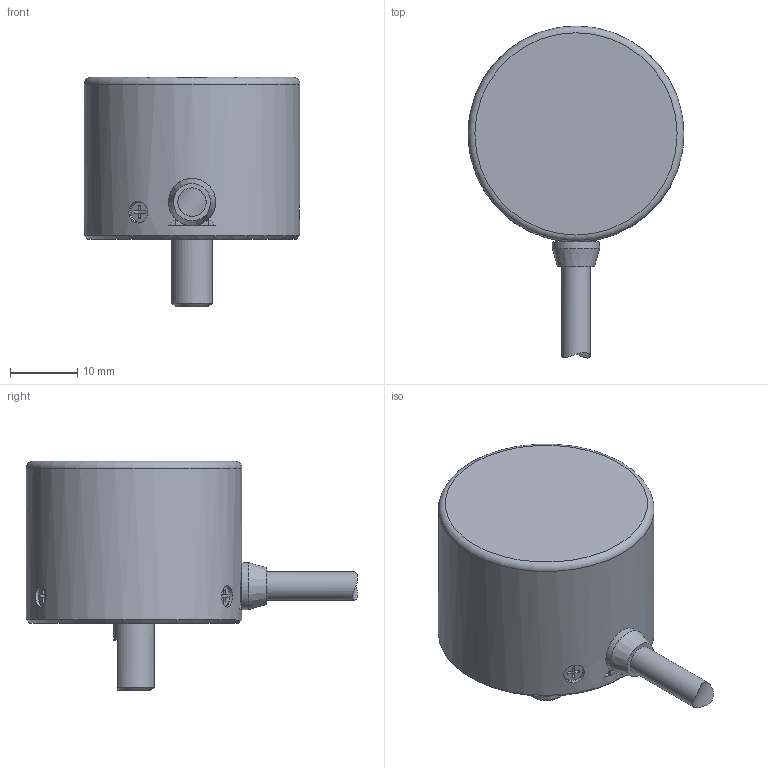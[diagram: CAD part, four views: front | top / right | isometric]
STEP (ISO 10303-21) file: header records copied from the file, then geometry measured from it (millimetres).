
FILE_DESCRIPTION(('STEP AP242'),'1');
FILE_NAME('1.stp','2022-08-19T09:54:58',(' '),(' '),'Spatial InterOp 3D',' ',' ');
FILE_SCHEMA(('AP242_MANAGED_MODEL_BASED_3D_ENGINEERING_MIM_LF {1 0 10303 442 1 1 4}'));
Length unit declared in the file: millimetre
Products named in the file (6): L08G06A MAS-20-＊＊＊□1; 029859 16芯ケーブル(4.2)MA-20P; φ4.2; MA20 ブッシュ; 018240 サラ0番1種 M2x4 鉄 三価黒
Assembly tree (7 placements, depth 3):
  L08G06A MAS-20-＊＊＊□1
    L08G06A MAS-20-＊＊＊□1
    029859 16芯ケーブル(4.2)MA-20P
      φ4.2
      MA20 ブッシュ
    018240 サラ0番1種 M2x4 鉄 三価黒  x3
Bounding box: 32 x 49.2 x 34 mm (x, y, z)
Volume: 19807.5 mm3; surface area: 5141.1 mm2
Topology: 6 solids, 7 shells, 128 faces, 291 edges, 188 vertices
Faces by surface type: plane 75, cylinder 35, cone 16, torus 2
Full cylindrical faces by diameter (mm): 2 x6, 2.5 x6, 3 x3, 3.2 x3, 4.2 x3, 6 x1, 7 x1, 10 x1, 14 x1, 32 x1
Entity records: 3564 total; most frequent: CARTESIAN_POINT 757, DIRECTION 387, ORIENTED_EDGE 292, AXIS2_PLACEMENT_3D 154, EDGE_CURVE 146, EDGE_LOOP 135, VERTEX_POINT 114, FACE_OUTER_BOUND 112
